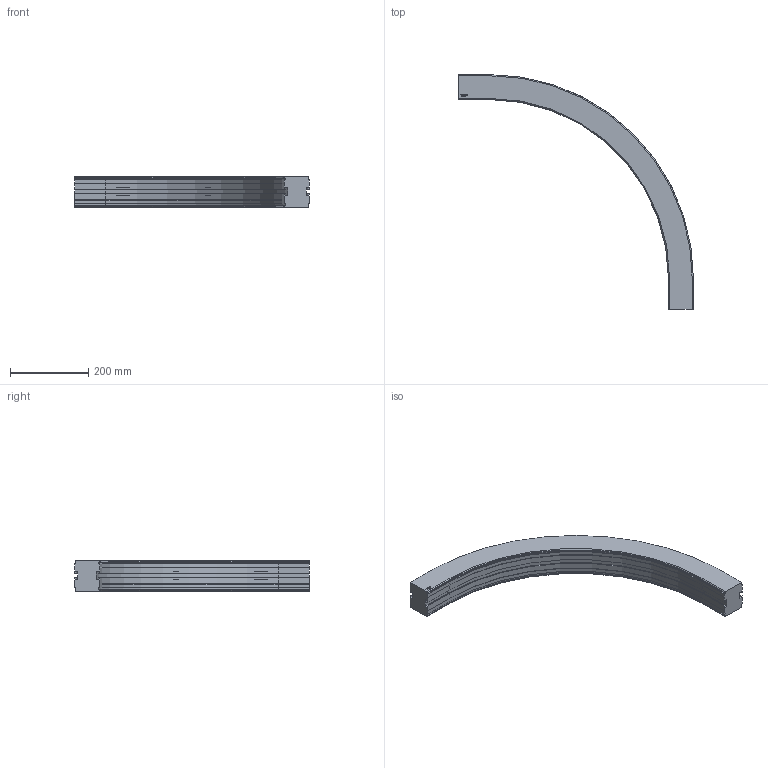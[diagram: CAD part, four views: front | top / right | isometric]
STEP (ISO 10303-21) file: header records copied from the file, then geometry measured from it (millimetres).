
FILE_DESCRIPTION((''),'2;1');
FILE_NAME('C:\Vault Klient\Projekt\Koncept konstruktion\Serie 620 Balk\620-5310.stp','2009-11-26T15:10:31',('Mathias'),(''),'Autodesk Inventor 2010','Autodesk Inventor 2010','');
FILE_SCHEMA(('AUTOMOTIVE_DESIGN { 1 0 10303 214 1 1 1 1 }'));
Length unit declared in the file: millimetre
Products named in the file (1): 620-5310
Bounding box: 601 x 601 x 78 mm (x, y, z)
Volume: 4316156.4 mm3; surface area: 343907.7 mm2
Topology: 1 solids, 1 shells, 169 faces, 446 edges, 284 vertices
Faces by surface type: plane 109, cylinder 30, bspline 14, cone 12, torus 4
Entity records: 5295 total; most frequent: CARTESIAN_POINT 1094, ORIENTED_EDGE 892, DIRECTION 802, EDGE_CURVE 446, VECTOR 346, LINE 346, VERTEX_POINT 284, AXIS2_PLACEMENT_3D 228
